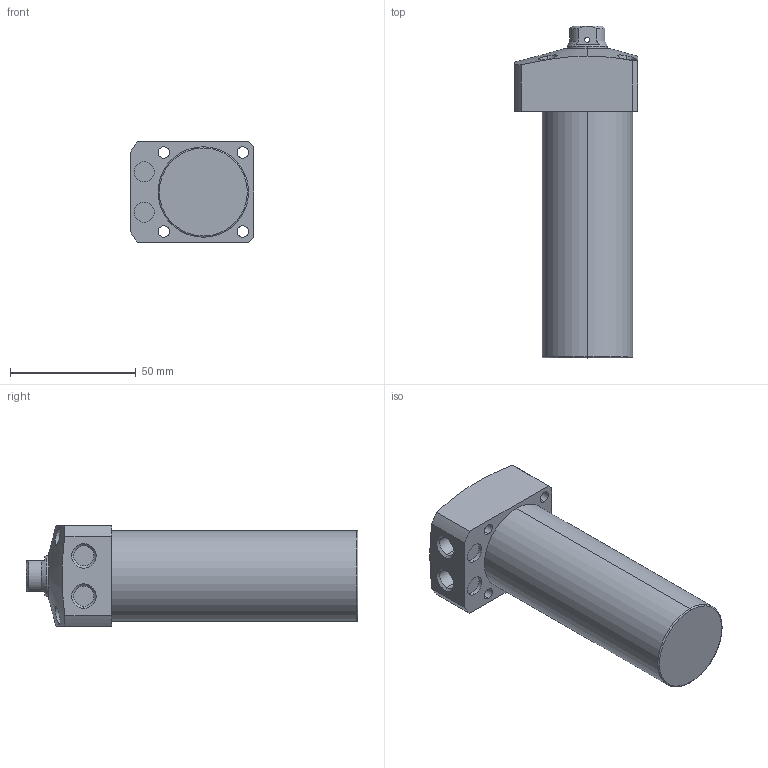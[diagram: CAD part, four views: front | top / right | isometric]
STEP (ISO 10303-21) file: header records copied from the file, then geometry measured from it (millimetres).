
FILE_DESCRIPTION (( 'STEP AP203' ), '1' );
FILE_NAME ('CLL-036CB-075.STEP', '2019-12-21T02:29:56', ( '' ), ( '' ), 'SwSTEP 2.0', 'SolidWorks 2015', '' );
FILE_SCHEMA (( 'CONFIG_CONTROL_DESIGN' ));
Length unit declared in the file: millimetre
Products named in the file (1): CLL-036CB-075
Bounding box: 49 x 132 x 40 mm (x, y, z)
Volume: 141172 mm3; surface area: 21291.6 mm2
Topology: 1 solids, 1 shells, 76 faces, 184 edges, 117 vertices
Faces by surface type: cylinder 38, plane 22, cone 14, torus 2
Entity records: 2699 total; most frequent: CARTESIAN_POINT 814, DIRECTION 386, ORIENTED_EDGE 364, EDGE_CURVE 182, AXIS2_PLACEMENT_3D 159, VERTEX_POINT 117, EDGE_LOOP 97, CIRCLE 82
